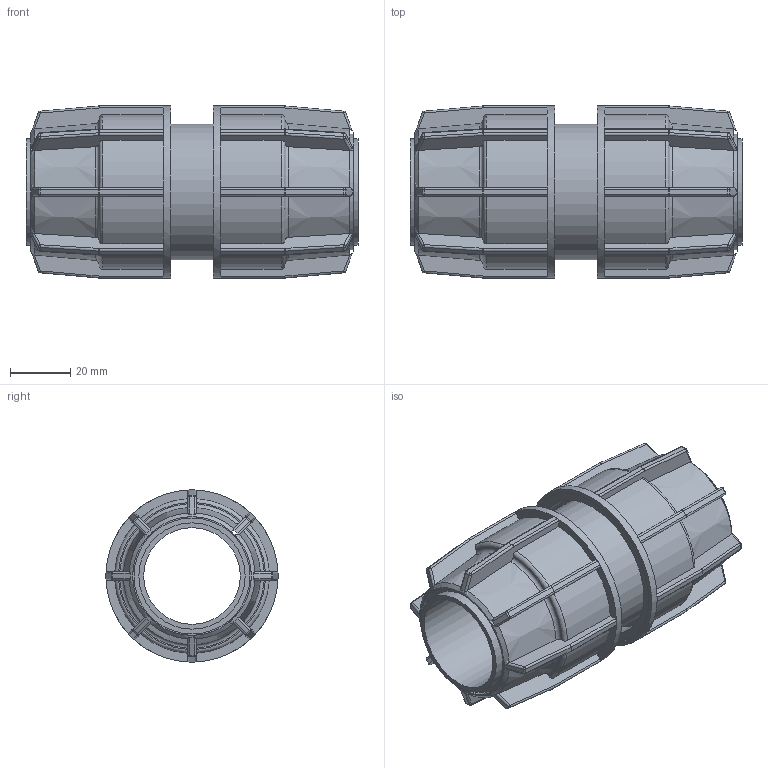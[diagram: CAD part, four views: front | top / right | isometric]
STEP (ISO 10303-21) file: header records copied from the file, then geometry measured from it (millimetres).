
FILE_DESCRIPTION(/* description */ ('PLASSON IRRIFIT COUPLER 32-32'),/* implementation_level */ '2;1');
FILE_NAME(/* name */ 'C:\Dropbox\KIMPROJECTS-Inventor\99-16-3568-Processing\Silver+MF ISRAEL\040107\040107032.ipt.stp',/* time_stamp */ '2018-04-09T12:59:33+03:00',/* author */ ('KIM'),/* organization */ (''),/* preprocessor_version */ 'ST-DEVELOPER v15.6',/* originating_system */ 'Autodesk Inventor 2015',/* authorisation */ '');
FILE_SCHEMA (('AUTOMOTIVE_DESIGN { 1 0 10303 214 3 1 1 }'));
Length unit declared in the file: millimetre
Products named in the file (1): 040107032
Bounding box: 110 x 57 x 57 mm (x, y, z)
Volume: 108794.8 mm3; surface area: 41568.6 mm2
Topology: 1 solids, 1 shells, 522 faces, 1233 edges, 710 vertices
Faces by surface type: plane 236, cylinder 156, sphere 64, torus 34, bspline 16, cone 16
Full cylindrical faces by diameter (mm): 32 x1, 35.2 x2, 38.4 x2, 44.8 x1, 48.45 x2, 54.15 x2, 57 x2
Entity records: 15840 total; most frequent: CARTESIAN_POINT 4487, ORIENTED_EDGE 2380, DIRECTION 2354, EDGE_CURVE 1190, AXIS2_PLACEMENT_3D 945, VERTEX_POINT 694, EDGE_LOOP 548, FACE_OUTER_BOUND 522
